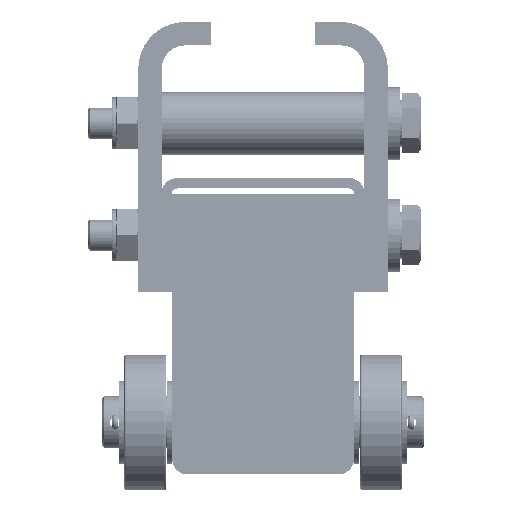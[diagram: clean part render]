
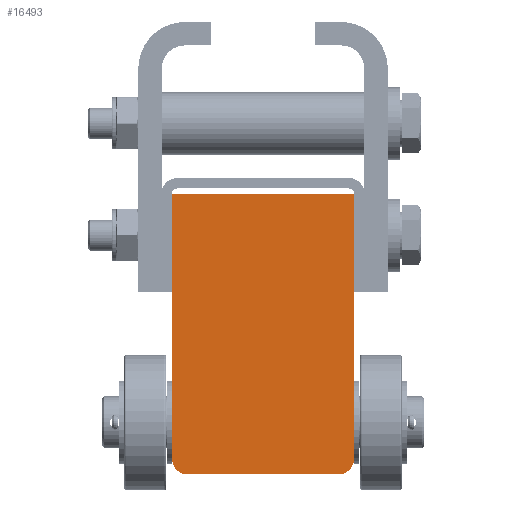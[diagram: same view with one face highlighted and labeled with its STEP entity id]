
A CAD part, front view. The second image highlights one B-rep face of the part: STEP entity #16493.
In plain terms, the highlighted planar face has unit normal (0, -1, 0).
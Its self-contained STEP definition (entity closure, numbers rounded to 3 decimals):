
#2280=PLANE('',#17848);
#2748=FACE_OUTER_BOUND('',#3821,.T.);
#3821=EDGE_LOOP('',(#11733,#11734,#11735,#11736,#11737,#11738));
#5065=LINE('',#25291,#5971);
#5069=LINE('',#25298,#5975);
#5070=LINE('',#25301,#5976);
#5073=LINE('',#25309,#5979);
#5971=VECTOR('',#20151,10.);
#5975=VECTOR('',#20159,10.);
#5976=VECTOR('',#20162,10.);
#5979=VECTOR('',#20171,10.);
#6901=CIRCLE('',#17844,3.);
#6902=CIRCLE('',#17847,3.);
#7760=VERTEX_POINT('',#25289);
#7761=VERTEX_POINT('',#25290);
#7762=VERTEX_POINT('',#25296);
#7763=VERTEX_POINT('',#25300);
#7764=VERTEX_POINT('',#25304);
#7765=VERTEX_POINT('',#25308);
#9296=EDGE_CURVE('',#7760,#7761,#5065,.T.);
#9300=EDGE_CURVE('',#7762,#7761,#5069,.T.);
#9301=EDGE_CURVE('',#7763,#7762,#5070,.T.);
#9303=EDGE_CURVE('',#7764,#7763,#6901,.T.);
#9305=EDGE_CURVE('',#7764,#7765,#5073,.T.);
#9307=EDGE_CURVE('',#7760,#7765,#6902,.T.);
#11733=ORIENTED_EDGE('',*,*,#9300,.F.);
#11734=ORIENTED_EDGE('',*,*,#9301,.F.);
#11735=ORIENTED_EDGE('',*,*,#9303,.F.);
#11736=ORIENTED_EDGE('',*,*,#9305,.T.);
#11737=ORIENTED_EDGE('',*,*,#9307,.F.);
#11738=ORIENTED_EDGE('',*,*,#9296,.T.);
#16493=ADVANCED_FACE('',(#2748),#2280,.F.);
#17844=AXIS2_PLACEMENT_3D('',#25305,#20166,#20167);
#17847=AXIS2_PLACEMENT_3D('',#25312,#20175,#20176);
#17848=AXIS2_PLACEMENT_3D('',#25313,#20177,#20178);
#20151=DIRECTION('',(0.,0.,1.));
#20159=DIRECTION('',(1.,0.,0.));
#20162=DIRECTION('',(0.,0.,1.));
#20166=DIRECTION('center_axis',(0.,1.,0.));
#20167=DIRECTION('ref_axis',(0.,0.,-1.));
#20171=DIRECTION('',(1.,0.,0.));
#20175=DIRECTION('center_axis',(0.,1.,0.));
#20176=DIRECTION('ref_axis',(1.,0.,0.));
#20177=DIRECTION('center_axis',(0.,1.,0.));
#20178=DIRECTION('ref_axis',(1.,0.,0.));
#25289=CARTESIAN_POINT('',(17.5,0.,3.));
#25290=CARTESIAN_POINT('',(17.5,0.,54.));
#25291=CARTESIAN_POINT('',(17.5,0.,3.));
#25296=CARTESIAN_POINT('',(-17.5,0.,54.));
#25298=CARTESIAN_POINT('',(-17.5,0.,54.));
#25300=CARTESIAN_POINT('',(-17.5,0.,3.));
#25301=CARTESIAN_POINT('',(-17.5,0.,3.));
#25304=CARTESIAN_POINT('',(-14.5,0.,0.));
#25305=CARTESIAN_POINT('Origin',(-14.5,0.,3.));
#25308=CARTESIAN_POINT('',(14.5,0.,0.));
#25309=CARTESIAN_POINT('',(0.,0.,0.));
#25312=CARTESIAN_POINT('Origin',(14.5,0.,3.));
#25313=CARTESIAN_POINT('Origin',(0.,0.,27.));
